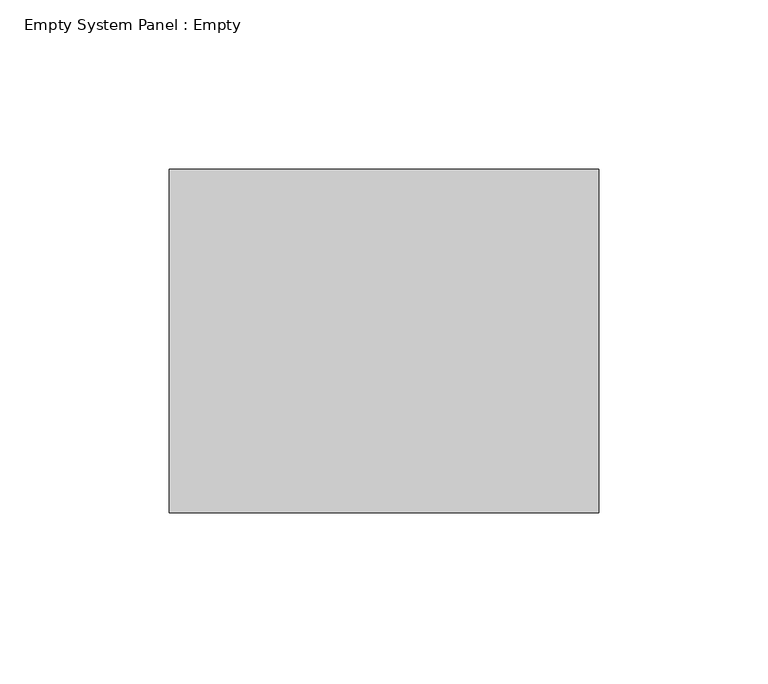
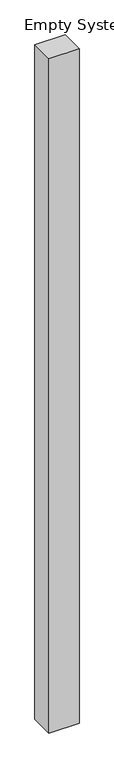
"""IFC4 building model written with IfcOpenShell, lengths in millimetres: plate geometry, Empty System Panel : Empty."""

from ifc_helpers import new_model, si_unit, origin, origin_with_axes, place, context, project, spatial, polyline, outline, extrude, source, transform, mapped, element, save


def empty_system_panel_empty_3087298d(model_context):
    return source(origin(), model_context, "Body", "SweptSolid", [
        extrude(outline(polyline([(63.5, -50.8), (-63.5, -50.8), (-63.5, 50.8), (63.5, 50.8), (63.5, -50.8)])), origin_with_axes(), (0.0, 0.0, 1.0), 2997.2),
    ])


if __name__ == "__main__":
    model = new_model("IFC4")
    model_context = context("Model", 3, world=origin())
    ifc_project = project(units=[si_unit("LENGTHUNIT", "METRE", prefix="MILLI")], contexts=[model_context])
    site = spatial("IfcSite", under=ifc_project)
    building = spatial("IfcBuilding", under=site)
    placement = place(None, origin())
    empty_system_panel_empty_shape = empty_system_panel_empty_3087298d(model_context)
    element("IfcPlate", 1, ObjectType="Empty System Panel : Empty", at=placement, inside=building, context=model_context, shape_type="MappedRepresentation", body=[
        mapped(empty_system_panel_empty_shape, transform((0.0, 0.0, 0.0), x_axis=(1.0, 0.0, 0.0), y_axis=(0.0, 1.0, 0.0), z_axis=(0.0, 0.0, 1.0))),
    ])
    save(model, "model.ifc")
